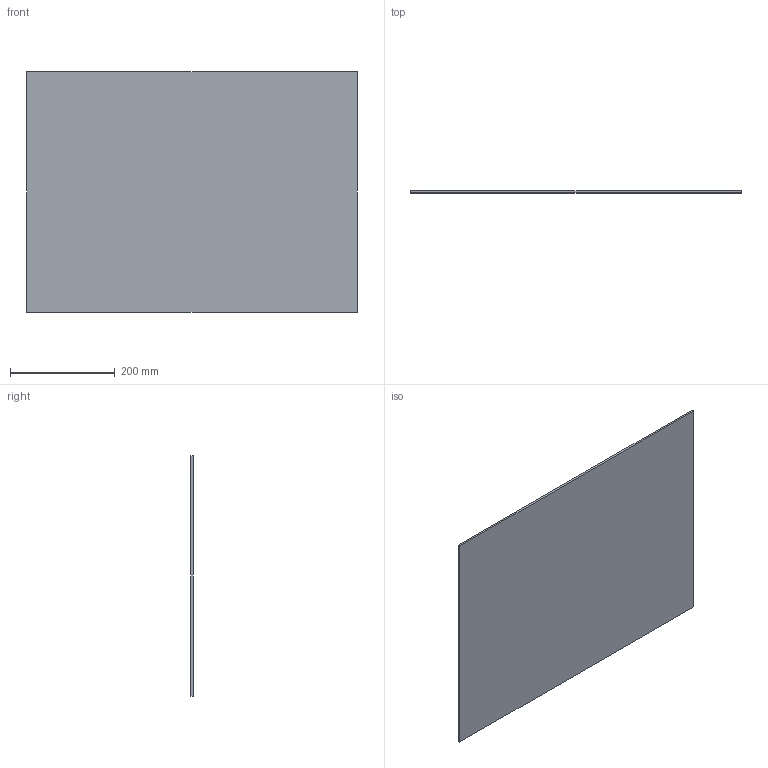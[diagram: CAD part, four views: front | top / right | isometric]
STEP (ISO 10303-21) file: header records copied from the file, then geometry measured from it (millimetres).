
FILE_DESCRIPTION (( 'STEP AP203' ), '1' );
FILE_NAME ('Vitre.STEP', '2026-06-24T07:29:50', ( '' ), ( '' ), 'SwSTEP 2.0', 'SolidWorks 2024', '' );
FILE_SCHEMA (( 'CONFIG_CONTROL_DESIGN' ));
Length unit declared in the file: millimetre
Products named in the file (1): Vitre
Bounding box: 631 x 4 x 458 mm (x, y, z)
Volume: 1155992 mm3; surface area: 586708 mm2
Topology: 1 solids, 1 shells, 6 faces, 12 edges, 8 vertices
Faces by surface type: plane 6
Entity records: 231 total; most frequent: CARTESIAN_POINT 27, DIRECTION 26, ORIENTED_EDGE 24, EDGE_CURVE 12, VECTOR 12, LINE 12, PERSON_AND_ORGANIZATION 8, VERTEX_POINT 8
